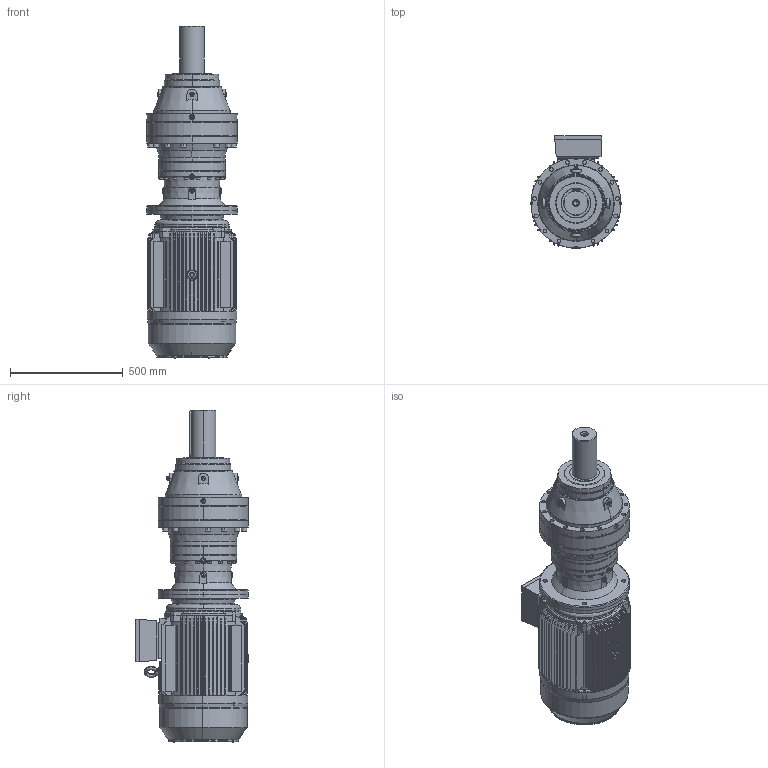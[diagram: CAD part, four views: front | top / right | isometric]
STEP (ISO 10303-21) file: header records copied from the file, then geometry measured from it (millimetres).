
FILE_DESCRIPTION (( 'STEP AP203' ), '1' );
FILE_NAME ('PVL-2702L-HS200-4.STEP', '2019-05-22T08:57:08', ( '' ), ( '' ), 'SwSTEP 2.0', 'SolidWorks 2012', '' );
FILE_SCHEMA (( 'CONFIG_CONTROL_DESIGN' ));
Products named in the file (18): PVL-2702L-HS200-4; HS200-4-B5; Plain parallel keys_GB_CONNECTING_PIECE_KEYS_CSK 16X100; 200-4B5; Y2-200-4.6.8¦¾Íß¦ð-Ô©Ã_-¼+¤; Y2-200-2.4.6.8ｦｾﾂ-ｩﾃ_-ｼ+､; ﾍﾟYE3-200L-4.6.8C+ﾎA+ｳ_-ｼ+､; Y2-200-4.6.8Ã¦Íß¦ð-Ô©Ã_-¼+¤; Y2-200+ｷﾎｨB5_-ｼ+､; MN2-200ﾀiﾍ_-ｼ+､; Eyebolts GB_GB_FASTENER_SCREWS_FRS M16-N; Y2-200-4.6.8-ｦﾈﾁﾂ-ｩﾃ_-ｼ+､; PNL_2702L_0_0_A20_B5_ML43A_FL12A_0_0_0_0_0_0_0_0_0_0_0_M1; FL12A_Varsayìlan; ML43A_Varsayìlan; 19200B5_Varsayìlan; EK2702L_Varsayìlan; P27_Varsayìlan
Assembly tree (17 placements, depth 4):
  PVL-2702L-HS200-4
    PNL_2702L_0_0_A20_B5_ML43A_FL12A_0_0_0_0_0_0_0_0_0_0_0_M1
      P27_Varsayìlan
      19200B5_Varsayìlan
      ML43A_Varsayìlan
      EK2702L_Varsayìlan
      FL12A_Varsayìlan
    HS200-4-B5
      200-4B5
        Y2-200-4.6.8-ｦﾈﾁﾂ-ｩﾃ_-ｼ+､
        MN2-200ﾀiﾍ_-ｼ+､
        Eyebolts GB_GB_FASTENER_SCREWS_FRS M16-N
        Y2-200+ｷﾎｨB5_-ｼ+､
        Y2-200-4.6.8Ã¦Íß¦ð-Ô©Ã_-¼+¤
        ﾍﾟYE3-200L-4.6.8C+ﾎA+ｳ_-ｼ+､
        Y2-200-2.4.6.8ｦｾﾂ-ｩﾃ_-ｼ+､
        Y2-200-4.6.8¦¾Íß¦ð-Ô©Ã_-¼+¤
        Plain parallel keys_GB_CONNECTING_PIECE_KEYS_CSK 16X100
Bounding box: 400 x 501.01 x 1475.2 mm (x, y, z)
Volume: 65384173.4 mm3; surface area: 5748612.5 mm2
Topology: 18 solids, 18 shells, 2637 faces, 6981 edges, 4486 vertices
Faces by surface type: plane 1095, cylinder 938, cone 392, bspline 212
Entity records: 99018 total; most frequent: CARTESIAN_POINT 32251, ORIENTED_EDGE 13850, DIRECTION 13470, EDGE_CURVE 6925, AXIS2_PLACEMENT_3D 5219, VERTEX_POINT 4486, LINE 3032, VECTOR 3032
